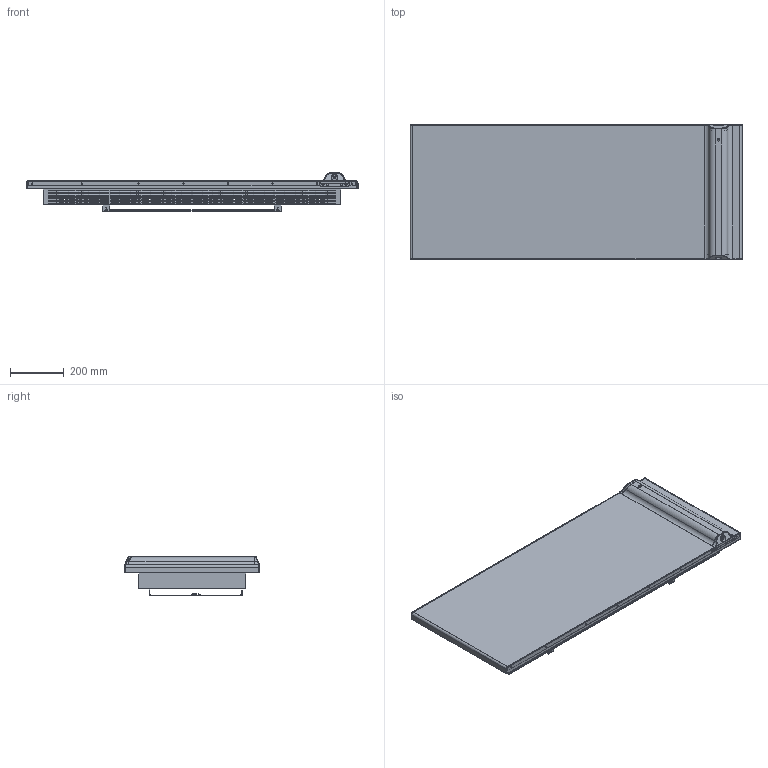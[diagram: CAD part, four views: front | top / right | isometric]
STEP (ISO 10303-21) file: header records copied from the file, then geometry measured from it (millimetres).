
FILE_DESCRIPTION(('FreeCAD Model'),'2;1');
FILE_NAME('Open CASCADE Shape Model','2026-06-05T10:03:33',(''),(''), 'Open CASCADE STEP processor 7.8','FreeCAD','Unknown');
FILE_SCHEMA(('AUTOMOTIVE_DESIGN { 1 0 10303 214 1 1 1 1 }'));
Length unit declared in the file: millimetre
Products named in the file (16): Unnamed; KLI_POSTERIORE_2000W; KLI_GR-COMANDI_ASM; KLI_PIR-BOARD; KLI_TAPPO-INFERIORE; KLI_ANTERIORE_2000W; KLI_GR-PROFILO-SUPERIO_2000W_ASM; KLI_PROFILO-SUPERIORE_2000W; KLI_COPERCHIO; KLI_DISPLAY-BOARD; KLI_ADESIVO; KLI_GR-SUPPORTO-MURALE_MAX_ASM; KLI_TRAVERSA-SUPPORTO_MAX; KLI_GR-ASTA-SUPPORTO-MURALE_ASM; KLI_SUPPORTO-MURALE; KLI_GR-ASTA-SUPPORTO-MURALE_ASM001
Assembly tree (16 placements, depth 4):
  Unnamed
    KLI_POSTERIORE_2000W
    KLI_GR-COMANDI_ASM
      KLI_PIR-BOARD
    KLI_TAPPO-INFERIORE
    KLI_ANTERIORE_2000W
    KLI_GR-PROFILO-SUPERIO_2000W_ASM
      KLI_PROFILO-SUPERIORE_2000W
    KLI_COPERCHIO
    KLI_DISPLAY-BOARD
    KLI_ADESIVO
    KLI_GR-SUPPORTO-MURALE_MAX_ASM
      KLI_TRAVERSA-SUPPORTO_MAX
      KLI_GR-ASTA-SUPPORTO-MURALE_ASM
        KLI_SUPPORTO-MURALE
      KLI_GR-ASTA-SUPPORTO-MURALE_ASM001
        KLI_SUPPORTO-MURALE
Bounding box: 1240 x 504.4 x 147 mm (x, y, z)
Volume: 1262334.9 mm3; surface area: 3275380.9 mm2
Topology: 11 solids, 11 shells, 2916 faces, 7540 edges, 4637 vertices
Faces by surface type: plane 1808, cylinder 626, bspline 226, torus 150, cone 61, sphere 44, extrusion 1
Entity records: 96838 total; most frequent: CARTESIAN_POINT 28287, ORIENTED_EDGE 14484, DIRECTION 13140, EDGE_CURVE 7242, VECTOR 5290, LINE 5289, VERTEX_POINT 4468, AXIS2_PLACEMENT_3D 3925
